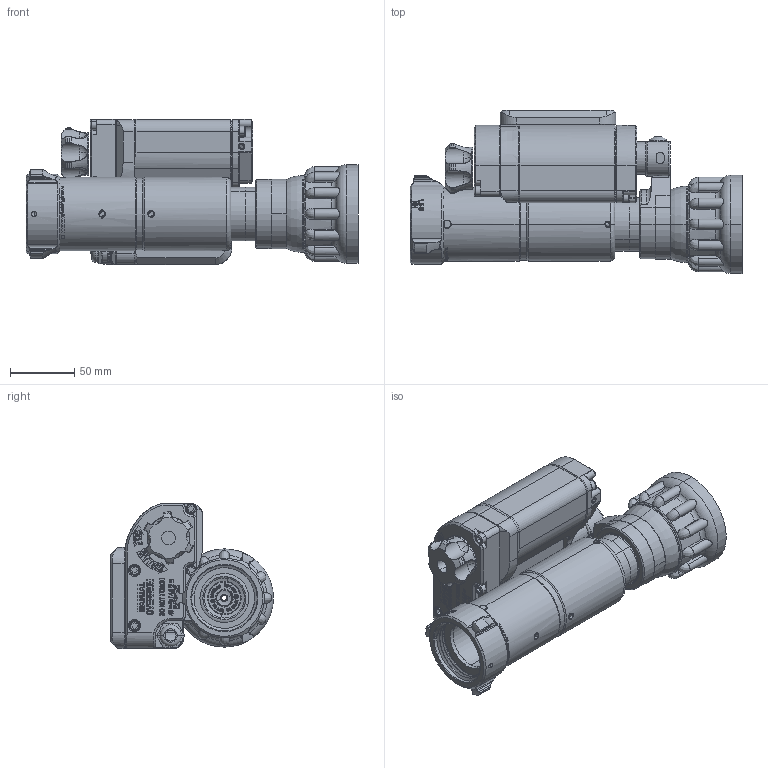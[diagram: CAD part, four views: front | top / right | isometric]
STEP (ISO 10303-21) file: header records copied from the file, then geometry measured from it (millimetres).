
FILE_DESCRIPTION (( 'STEP AP203' ), '1' );
FILE_NAME ('BER-HT120.STEP', '2020-09-08T20:09:40', ( 'Windows User' ), ( '' ), 'SwSTEP 2.0', 'SolidWorks 2019', '' );
FILE_SCHEMA (( 'CONFIG_CONTROL_DESIGN' ));
Products named in the file (1): BER-HT120
Bounding box: 258.73 x 127.01 x 113.03 mm (x, y, z)
Surface area: 159525.4 mm2 (no closed solid volume)
Topology: 0 solids, 57 shells, 1232 faces, 4898 edges, 3743 vertices
Faces by surface type: plane 522, cylinder 307, bspline 160, torus 117, cone 108, sphere 18
Entity records: 73522 total; most frequent: CARTESIAN_POINT 35651, ORIENTED_EDGE 8009, DIRECTION 6600, EDGE_CURVE 4898, VERTEX_POINT 3743, LINE 2278, VECTOR 2278, AXIS2_PLACEMENT_3D 2161
